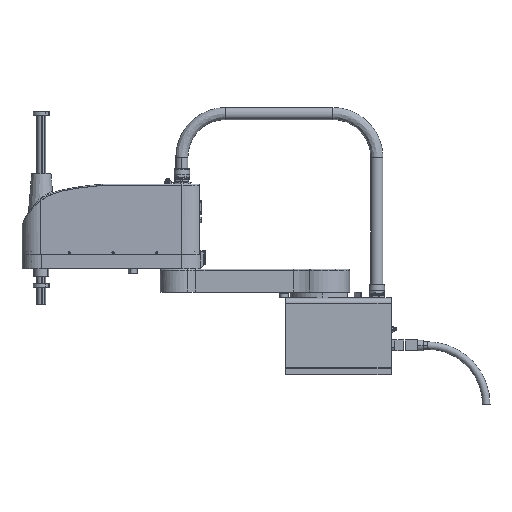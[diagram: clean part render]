
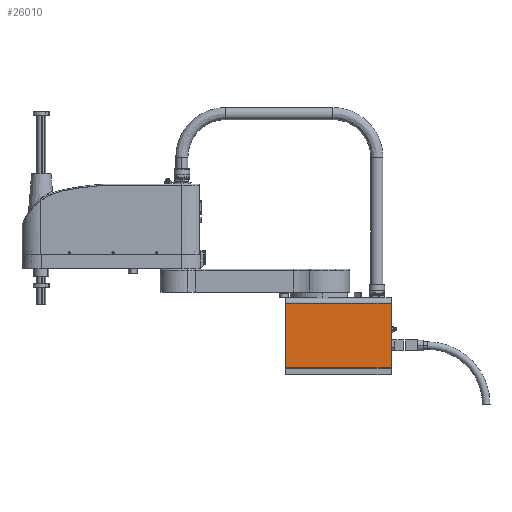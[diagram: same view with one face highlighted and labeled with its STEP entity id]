
A CAD part, top view. The second image highlights one B-rep face of the part: STEP entity #26010.
In plain terms, the highlighted planar face has unit normal (0, 0, 1).
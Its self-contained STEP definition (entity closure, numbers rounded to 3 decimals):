
#226 = CARTESIAN_POINT ( 'NONE',  ( -104.652, -182.037, 105.048 ) ) ;
#454 = VERTEX_POINT ( 'NONE', #226 ) ;
#1998 = CARTESIAN_POINT ( 'NONE',  ( 195.348, 0.963, 105.048 ) ) ;
#4603 = LINE ( 'NONE', #39049, #17482 ) ;
#8030 = LINE ( 'NONE', #41776, #45299 ) ;
#11238 = FACE_OUTER_BOUND ( 'NONE', #58748, .T. ) ;
#11947 = EDGE_CURVE ( 'NONE', #454, #50426, #31503, .T. ) ;
#17482 = VECTOR ( 'NONE', #43936, 1000. ) ;
#21889 = DIRECTION ( 'NONE',  ( 0., 0., -1. ) ) ;
#22862 = LINE ( 'NONE', #60976, #60174 ) ;
#26010 = ADVANCED_FACE ( 'NONE', ( #11238 ), #60598, .F. ) ;
#31503 = LINE ( 'NONE', #61451, #44481 ) ;
#31641 = VERTEX_POINT ( 'NONE', #1998 ) ;
#31668 = CARTESIAN_POINT ( 'NONE',  ( 195.348, -182.037, 105.048 ) ) ;
#33284 = VERTEX_POINT ( 'NONE', #40274 ) ;
#35090 = ORIENTED_EDGE ( 'NONE', *, *, #11947, .T. ) ;
#36757 = DIRECTION ( 'NONE',  ( 0., -1., 0. ) ) ;
#37228 = DIRECTION ( 'NONE',  ( 1., 0., 0. ) ) ;
#39049 = CARTESIAN_POINT ( 'NONE',  ( -104.652, -184.037, 105.048 ) ) ;
#40274 = CARTESIAN_POINT ( 'NONE',  ( -104.652, 0.963, 105.048 ) ) ;
#41147 = EDGE_CURVE ( 'NONE', #33284, #454, #4603, .T. ) ;
#41776 = CARTESIAN_POINT ( 'NONE',  ( 195.348, 0.963, 105.048 ) ) ;
#43936 = DIRECTION ( 'NONE',  ( 0., -1., 0. ) ) ;
#44481 = VECTOR ( 'NONE', #37228, 1000. ) ;
#45299 = VECTOR ( 'NONE', #51575, 1000. ) ;
#50426 = VERTEX_POINT ( 'NONE', #31668 ) ;
#51065 = CARTESIAN_POINT ( 'NONE',  ( 195.348, 15.963, 105.048 ) ) ;
#51575 = DIRECTION ( 'NONE',  ( 1., 0., 0. ) ) ;
#53934 = AXIS2_PLACEMENT_3D ( 'NONE', #51065, #21889, #55946 ) ;
#54073 = EDGE_CURVE ( 'NONE', #31641, #50426, #22862, .T. ) ;
#55946 = DIRECTION ( 'NONE',  ( 0., 1., 0. ) ) ;
#56508 = EDGE_CURVE ( 'NONE', #33284, #31641, #8030, .T. ) ;
#58748 = EDGE_LOOP ( 'NONE', ( #35090, #62942, #60268, #61081 ) ) ;
#60174 = VECTOR ( 'NONE', #36757, 1000. ) ;
#60268 = ORIENTED_EDGE ( 'NONE', *, *, #56508, .F. ) ;
#60598 = PLANE ( 'NONE',  #53934 ) ;
#60976 = CARTESIAN_POINT ( 'NONE',  ( 195.348, -184.037, 105.048 ) ) ;
#61081 = ORIENTED_EDGE ( 'NONE', *, *, #41147, .T. ) ;
#61451 = CARTESIAN_POINT ( 'NONE',  ( -365.275, -182.037, 105.048 ) ) ;
#62942 = ORIENTED_EDGE ( 'NONE', *, *, #54073, .F. ) ;
